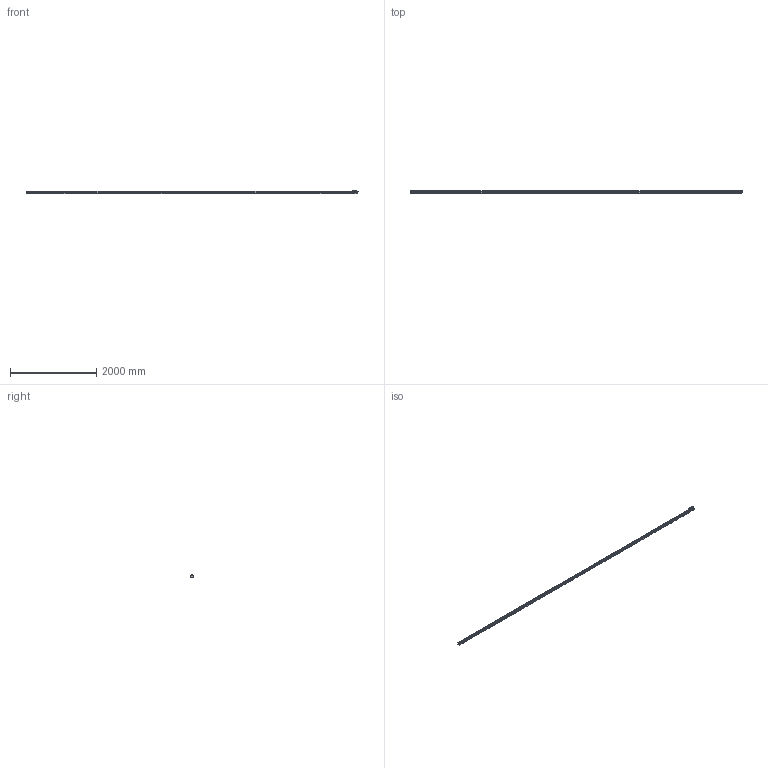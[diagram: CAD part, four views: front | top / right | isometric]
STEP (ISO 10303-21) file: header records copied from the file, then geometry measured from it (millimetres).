
FILE_DESCRIPTION(('Creo Elements/Direct Modeling STEP Export'),'2;1');
FILE_NAME('REGLA_L3_7440.stp','2021-02-03T12:26:54',(''),(''),'Creo Elements/Direct Modeling STEP processor for AP214 (Solid Model)','Creo Elements/Direct Modeling 19.0G 27-Nov-2017 (C) Parametric Technology GmbH','');
FILE_SCHEMA(('AUTOMOTIVE_DESIGN { 1 0 10303 214 1 1 1 1 }'));
Length unit declared in the file: millimetre
Products named in the file (3): CABEZA_L3_M8; PERFIL_L3_7440; MOD_L3_7440
Assembly tree (2 placements, depth 2):
  MOD_L3_7440
    PERFIL_L3_7440
    CABEZA_L3_M8
Bounding box: 7690 x 50 x 85 mm (x, y, z)
Volume: 19930317.8 mm3; surface area: 2231609.5 mm2
Topology: 2 solids, 2 shells, 2448 faces, 7041 edges, 4694 vertices
Faces by surface type: plane 1234, cylinder 859, cone 240, bspline 59, torus 50, extrusion 6
Entity records: 96060 total; most frequent: CARTESIAN_POINT 26683, ORIENTED_EDGE 14066, DIRECTION 12502, EDGE_CURVE 7033, VERTEX_POINT 4694, VECTOR 4438, LINE 4432, AXIS2_PLACEMENT_3D 4032
